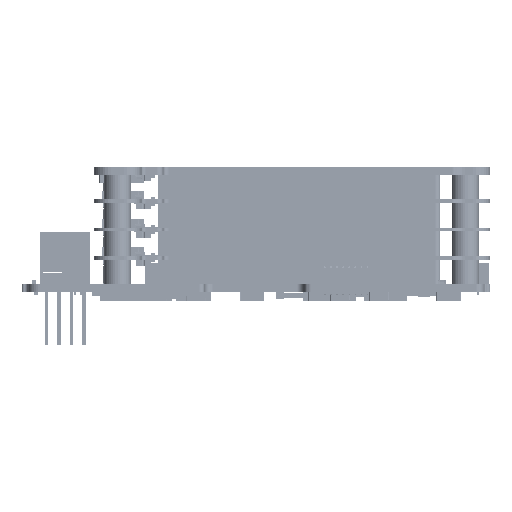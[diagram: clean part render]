
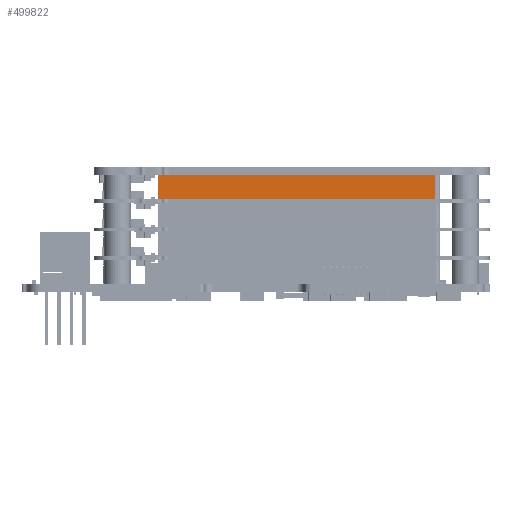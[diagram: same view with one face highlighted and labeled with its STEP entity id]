
A CAD part, left-side view. The second image highlights one B-rep face of the part: STEP entity #499822.
In plain terms, the highlighted planar face has unit normal (-1, 0, 0).
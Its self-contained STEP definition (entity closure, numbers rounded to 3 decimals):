
#17039 = LINE ( 'NONE', #317403, #373951 ) ;
#31141 = AXIS2_PLACEMENT_3D ( 'NONE', #338751, #96640, #377785 ) ;
#37160 = LINE ( 'NONE', #276679, #406750 ) ;
#75776 = VERTEX_POINT ( 'NONE', #187055 ) ;
#88476 = EDGE_CURVE ( 'NONE', #480865, #75776, #17039, .T. ) ;
#96640 = DIRECTION ( 'NONE',  ( -1., 0., 0. ) ) ;
#182491 = CARTESIAN_POINT ( 'NONE',  ( 11.95, 66.91, 17.397 ) ) ;
#187055 = CARTESIAN_POINT ( 'NONE',  ( 11.95, 10.1, 22.397 ) ) ;
#192118 = ORIENTED_EDGE ( 'NONE', *, *, #206133, .T. ) ;
#195457 = CARTESIAN_POINT ( 'NONE',  ( 11.95, 66.91, 22.397 ) ) ;
#206133 = EDGE_CURVE ( 'NONE', #472259, #480865, #37160, .T. ) ;
#219417 = EDGE_LOOP ( 'NONE', ( #192118, #448284, #381006, #442664 ) ) ;
#252945 = PLANE ( 'NONE',  #31141 ) ;
#257091 = VERTEX_POINT ( 'NONE', #417399 ) ;
#274145 = DIRECTION ( 'NONE',  ( 0., -1., 0. ) ) ;
#276679 = CARTESIAN_POINT ( 'NONE',  ( 11.95, 38.005, 17.397 ) ) ;
#304789 = LINE ( 'NONE', #182491, #341935 ) ;
#317403 = CARTESIAN_POINT ( 'NONE',  ( 11.95, 10.1, 17.397 ) ) ;
#333586 = FACE_OUTER_BOUND ( 'NONE', #219417, .T. ) ;
#333970 = EDGE_CURVE ( 'NONE', #75776, #257091, #388059, .T. ) ;
#338751 = CARTESIAN_POINT ( 'NONE',  ( 11.95, 66.91, 17.397 ) ) ;
#341935 = VECTOR ( 'NONE', #463537, 1000. ) ;
#342665 = CARTESIAN_POINT ( 'NONE',  ( 11.95, 66.91, 17.397 ) ) ;
#349074 = DIRECTION ( 'NONE',  ( 0., 1., 0. ) ) ;
#373951 = VECTOR ( 'NONE', #481336, 1000. ) ;
#377785 = DIRECTION ( 'NONE',  ( 0., -1., 0. ) ) ;
#381006 = ORIENTED_EDGE ( 'NONE', *, *, #333970, .T. ) ;
#388059 = LINE ( 'NONE', #195457, #492155 ) ;
#406750 = VECTOR ( 'NONE', #274145, 1000. ) ;
#412928 = EDGE_CURVE ( 'NONE', #257091, #472259, #304789, .T. ) ;
#417399 = CARTESIAN_POINT ( 'NONE',  ( 11.95, 66.91, 22.397 ) ) ;
#442664 = ORIENTED_EDGE ( 'NONE', *, *, #412928, .T. ) ;
#448284 = ORIENTED_EDGE ( 'NONE', *, *, #88476, .T. ) ;
#457106 = CARTESIAN_POINT ( 'NONE',  ( 11.95, 10.1, 17.397 ) ) ;
#463537 = DIRECTION ( 'NONE',  ( 0., 0., -1. ) ) ;
#472259 = VERTEX_POINT ( 'NONE', #342665 ) ;
#480865 = VERTEX_POINT ( 'NONE', #457106 ) ;
#481336 = DIRECTION ( 'NONE',  ( 0., 0., 1. ) ) ;
#492155 = VECTOR ( 'NONE', #349074, 1000. ) ;
#499822 = ADVANCED_FACE ( 'NONE', ( #333586 ), #252945, .T. ) ;
